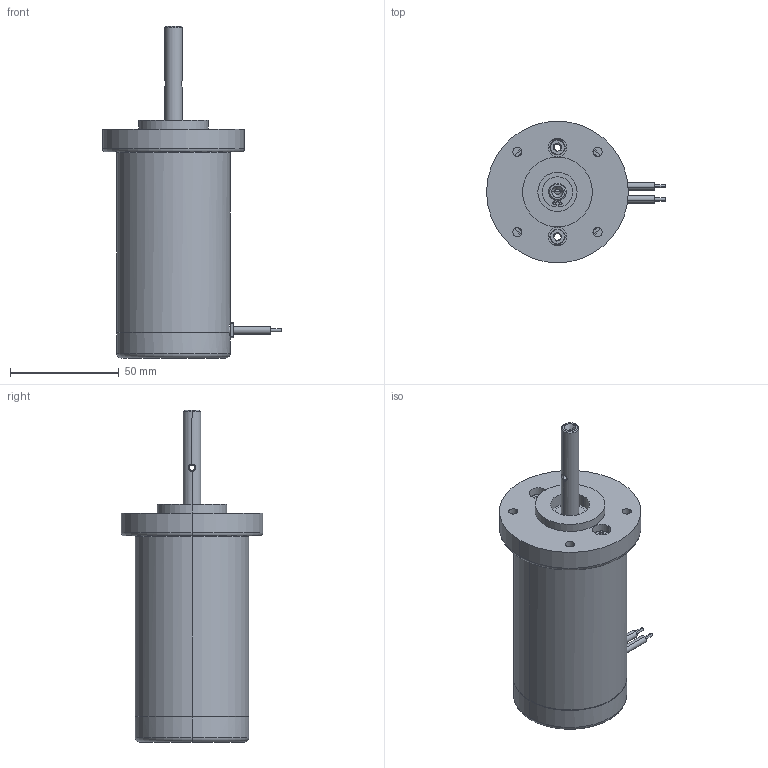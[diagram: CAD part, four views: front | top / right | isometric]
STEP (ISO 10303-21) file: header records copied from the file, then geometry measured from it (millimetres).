
FILE_DESCRIPTION (( 'STEP AP203' ), '1' );
FILE_NAME ('Motor PGK 53-30 nach Zchng 2484625.STEP', '2016-12-05T09:37:00', ( 'kob' ), ( 'Microsoft' ), 'SwSTEP 2.0', 'SolidWorks 2014', '' );
FILE_SCHEMA (( 'CONFIG_CONTROL_DESIGN' ));
Length unit declared in the file: millimetre
Products named in the file (1): Motor PGK 53-30 nach Zchng 2484625
Bounding box: 82 x 65 x 152.3 mm (x, y, z)
Surface area: 28397.6 mm2 (no closed solid volume)
Topology: 0 solids, 11 shells, 113 faces, 299 edges, 198 vertices
Faces by surface type: cylinder 60, plane 30, cone 11, torus 8, bspline 4
Entity records: 5927 total; most frequent: CARTESIAN_POINT 3038, DIRECTION 631, ORIENTED_EDGE 510, EDGE_CURVE 299, AXIS2_PLACEMENT_3D 252, VERTEX_POINT 198, CIRCLE 142, EDGE_LOOP 134
